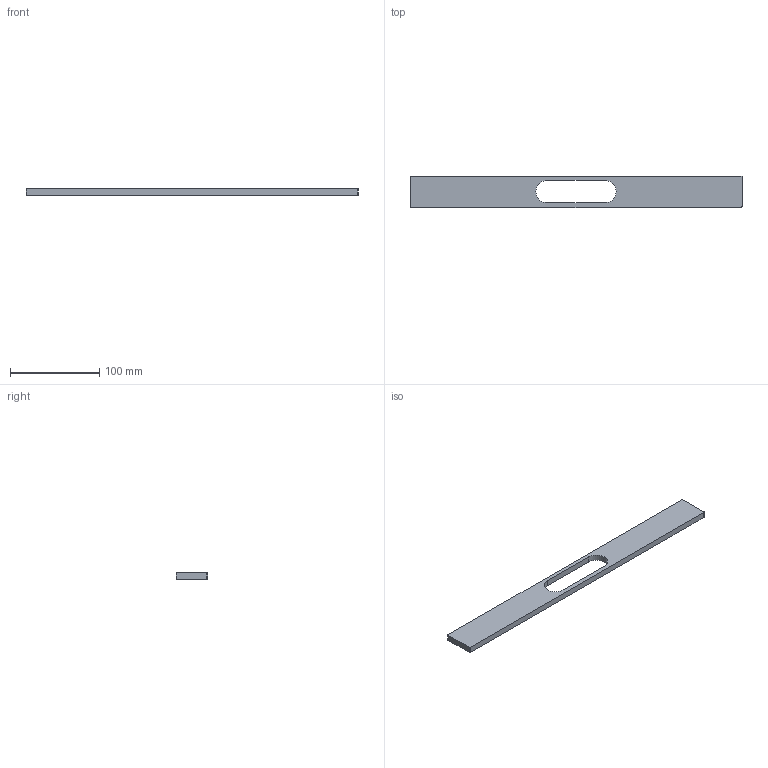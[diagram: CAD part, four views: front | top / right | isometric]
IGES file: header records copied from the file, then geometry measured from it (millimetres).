
Start section: Data from Parasolid IGES Translator 15.0.47, Copyright(c) 2006 Siemens P LM Software. All Rights Reserved.
Global section: file name: 9064819.igs; native system:  By UGS Corp.; preprocessor: XPlus GENERIC/IGES 3.0; author: Noname; organization: Noname; date: 20140122.183314; units: millimetre
Bounding box: 372 x 35 x 7 mm (x, y, z)
Surface area: 29160.2 mm2 (no closed solid volume)
Topology: 0 solids, 0 shells, 17 faces, 78 edges, 76 vertices
Faces by surface type: extrusion 10, revolution 7
